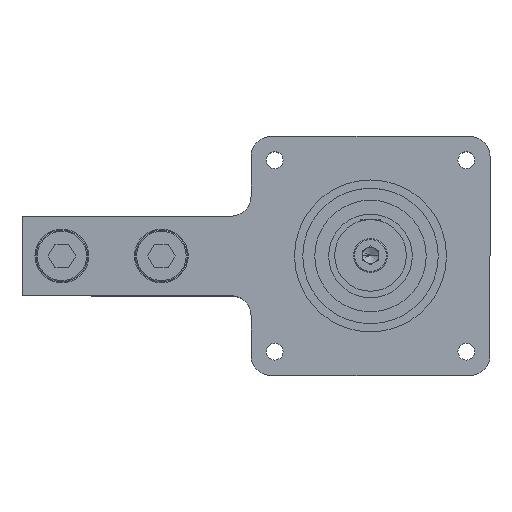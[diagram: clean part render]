
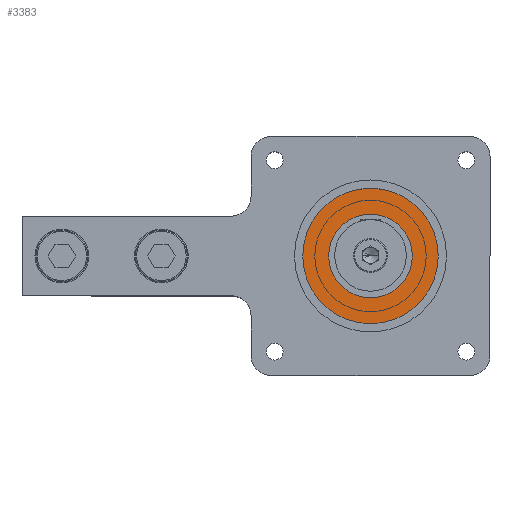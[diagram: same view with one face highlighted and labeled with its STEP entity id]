
A CAD part, top view. The second image highlights one B-rep face of the part: STEP entity #3383.
In plain terms, the highlighted planar face has unit normal (0, 0, 1).
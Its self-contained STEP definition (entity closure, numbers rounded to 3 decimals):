
#490 = EDGE_LOOP ( 'NONE', ( #631, #8702 ) ) ;
#631 = ORIENTED_EDGE ( 'NONE', *, *, #8778, .T. ) ;
#775 = DIRECTION ( 'NONE',  ( 0., 0., 1. ) ) ;
#817 = DIRECTION ( 'NONE',  ( 1., 0., 0. ) ) ;
#860 = DIRECTION ( 'NONE',  ( -1., 0., 0. ) ) ;
#1851 = AXIS2_PLACEMENT_3D ( 'NONE', #12816, #11841, #860 ) ;
#2349 = VERTEX_POINT ( 'NONE', #7246 ) ;
#2638 = DIRECTION ( 'NONE',  ( 1., 0., 0. ) ) ;
#2667 = DIRECTION ( 'NONE',  ( 0., 0., 1. ) ) ;
#3383 = ADVANCED_FACE ( 'NONE', ( #12911, #9259 ), #13007, .F. ) ;
#3384 = EDGE_CURVE ( 'NONE', #2349, #11421, #5455, .T. ) ;
#3620 = ORIENTED_EDGE ( 'NONE', *, *, #3384, .F. ) ;
#3799 = CARTESIAN_POINT ( 'NONE',  ( 0., 0., 5.5 ) ) ;
#3852 = AXIS2_PLACEMENT_3D ( 'NONE', #6050, #2667, #5002 ) ;
#3894 = CARTESIAN_POINT ( 'NONE',  ( 10.5, 0., 5.5 ) ) ;
#3939 = CARTESIAN_POINT ( 'NONE',  ( 17., 0., 5.5 ) ) ;
#4122 = VERTEX_POINT ( 'NONE', #4154 ) ;
#4154 = CARTESIAN_POINT ( 'NONE',  ( -17., 0., 5.5 ) ) ;
#5002 = DIRECTION ( 'NONE',  ( 1., 0., 0. ) ) ;
#5023 = CIRCLE ( 'NONE', #5115, 17. ) ;
#5115 = AXIS2_PLACEMENT_3D ( 'NONE', #9381, #6189, #13745 ) ;
#5455 = CIRCLE ( 'NONE', #14351, 10.5 ) ;
#5504 = EDGE_CURVE ( 'NONE', #4122, #8454, #5023, .T. ) ;
#5660 = ORIENTED_EDGE ( 'NONE', *, *, #12921, .F. ) ;
#5826 = EDGE_LOOP ( 'NONE', ( #5660, #3620 ) ) ;
#6050 = CARTESIAN_POINT ( 'NONE',  ( 0., 0., 5.5 ) ) ;
#6189 = DIRECTION ( 'NONE',  ( 0., 0., 1. ) ) ;
#7246 = CARTESIAN_POINT ( 'NONE',  ( -10.5, 0., 5.5 ) ) ;
#7250 = CIRCLE ( 'NONE', #7588, 10.5 ) ;
#7588 = AXIS2_PLACEMENT_3D ( 'NONE', #3799, #11541, #2638 ) ;
#8454 = VERTEX_POINT ( 'NONE', #3939 ) ;
#8536 = CARTESIAN_POINT ( 'NONE',  ( 0., 0., 5.5 ) ) ;
#8702 = ORIENTED_EDGE ( 'NONE', *, *, #5504, .T. ) ;
#8778 = EDGE_CURVE ( 'NONE', #8454, #4122, #10043, .T. ) ;
#9259 = FACE_OUTER_BOUND ( 'NONE', #490, .T. ) ;
#9381 = CARTESIAN_POINT ( 'NONE',  ( 0., 0., 5.5 ) ) ;
#10043 = CIRCLE ( 'NONE', #3852, 17. ) ;
#11421 = VERTEX_POINT ( 'NONE', #3894 ) ;
#11541 = DIRECTION ( 'NONE',  ( 0., 0., 1. ) ) ;
#11841 = DIRECTION ( 'NONE',  ( 0., 0., -1. ) ) ;
#12816 = CARTESIAN_POINT ( 'NONE',  ( -17., 0., 5.5 ) ) ;
#12911 = FACE_BOUND ( 'NONE', #5826, .T. ) ;
#12921 = EDGE_CURVE ( 'NONE', #11421, #2349, #7250, .T. ) ;
#13007 = PLANE ( 'NONE',  #1851 ) ;
#13745 = DIRECTION ( 'NONE',  ( 1., 0., 0. ) ) ;
#14351 = AXIS2_PLACEMENT_3D ( 'NONE', #8536, #775, #817 ) ;
